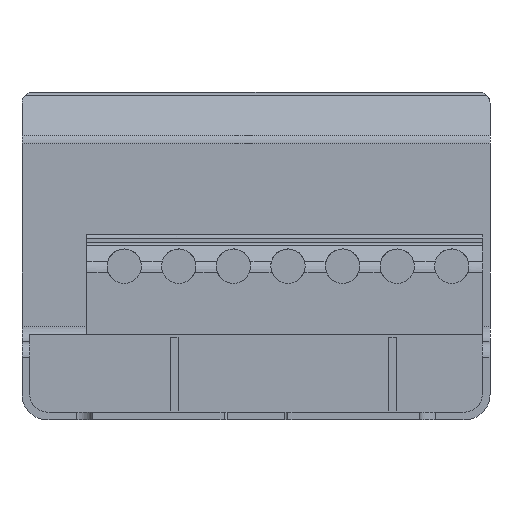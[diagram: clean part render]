
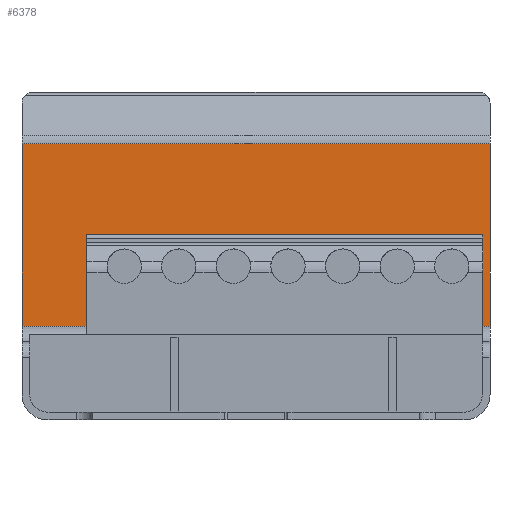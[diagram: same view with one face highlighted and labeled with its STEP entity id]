
A CAD part, front view. The second image highlights one B-rep face of the part: STEP entity #6378.
In plain terms, the highlighted planar face has unit normal (0, -1, 0).
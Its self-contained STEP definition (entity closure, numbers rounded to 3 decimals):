
#2062=DIRECTION('',(1.,0.,0.));
#2063=VECTOR('',#2062,30.);
#2064=CARTESIAN_POINT('',(-15.,-110.7,6.));
#2065=LINE('',#2064,#2063);
#3129=DIRECTION('',(0.,0.,1.));
#3130=VECTOR('',#3129,11.71);
#3131=CARTESIAN_POINT('',(-15.,-110.7,6.));
#3132=LINE('',#3131,#3130);
#3136=DIRECTION('',(1.,0.,0.));
#3137=VECTOR('',#3136,30.);
#3138=CARTESIAN_POINT('',(-15.,-110.7,17.71));
#3139=LINE('',#3138,#3137);
#3143=DIRECTION('',(0.,0.,-1.));
#3144=VECTOR('',#3143,11.71);
#3145=CARTESIAN_POINT('',(15.,-110.7,17.71));
#3146=LINE('',#3145,#3144);
#4164=CARTESIAN_POINT('',(-15.,-110.7,17.71));
#4165=CARTESIAN_POINT('',(15.,-110.7,17.71));
#4166=VERTEX_POINT('',#4164);
#4167=VERTEX_POINT('',#4165);
#4264=CARTESIAN_POINT('',(15.,-110.7,6.));
#4265=VERTEX_POINT('',#4264);
#4266=CARTESIAN_POINT('',(-15.,-110.7,6.));
#4267=VERTEX_POINT('',#4266);
#6366=CARTESIAN_POINT('',(-15.,-110.7,5.45));
#6367=DIRECTION('',(0.,-1.,0.));
#6368=DIRECTION('',(0.,0.,1.));
#6369=AXIS2_PLACEMENT_3D('',#6366,#6367,#6368);
#6370=PLANE('',#6369);
#6371=ORIENTED_EDGE('',*,*,#5646,.F.);
#6372=ORIENTED_EDGE('',*,*,#4301,.T.);
#6374=ORIENTED_EDGE('',*,*,#6373,.T.);
#6375=ORIENTED_EDGE('',*,*,#4481,.T.);
#6376=EDGE_LOOP('',(#6371,#6372,#6374,#6375));
#6377=FACE_OUTER_BOUND('',#6376,.F.);
#4301=EDGE_CURVE('',#4267,#4166,#3132,.T.);
#4481=EDGE_CURVE('',#4167,#4265,#3146,.T.);
#5646=EDGE_CURVE('',#4267,#4265,#2065,.T.);
#6373=EDGE_CURVE('',#4166,#4167,#3139,.T.);
#6378=ADVANCED_FACE('',(#6377),#6370,.T.);
